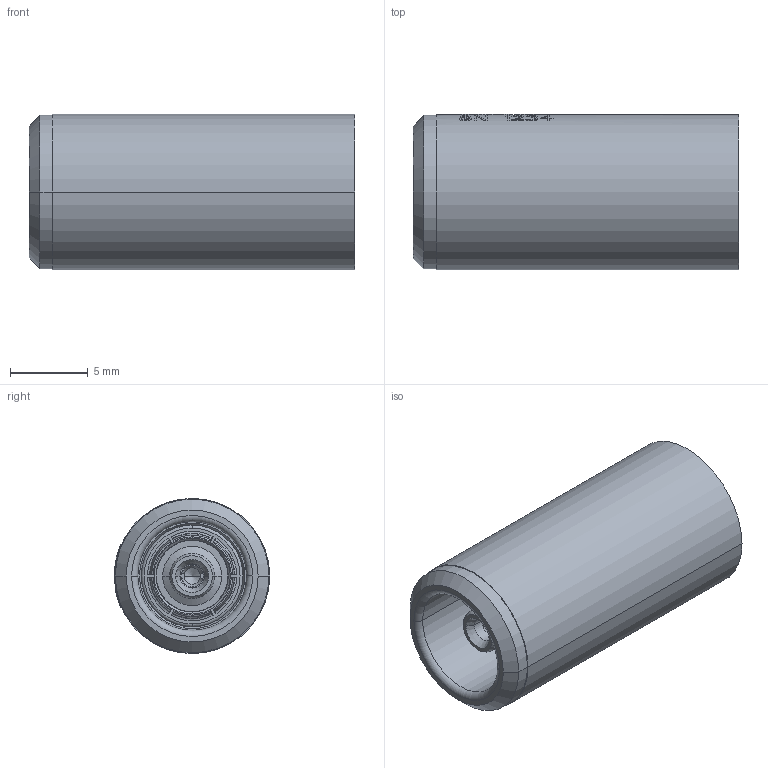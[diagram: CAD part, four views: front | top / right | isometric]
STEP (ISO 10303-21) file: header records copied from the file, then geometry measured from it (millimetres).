
FILE_DESCRIPTION((''),'2;1');
FILE_NAME('CS1_04','2009-08-25T',('11000065'),(''),'PRO/ENGINEER BY PARAMETRIC TECHNOLOGY CORPORATION, 2008490','PRO/ENGINEER BY PARAMETRIC TECHNOLOGY CORPORATION, 2008490','');
FILE_SCHEMA(('AUTOMOTIVE_DESIGN { 1 2 10303 214 0 1 1 1 }'));
Length unit declared in the file: millimetre
Products named in the file (1): CS1_04
Bounding box: 21 x 10.02 x 10 mm (x, y, z)
Volume: 1312.6 mm3; surface area: 1380.5 mm2
Topology: 1 solids, 5 shells, 833 faces, 2371 edges, 1583 vertices
Faces by surface type: plane 700, cylinder 79, cone 30, torus 24
Entity records: 36027 total; most frequent: CARTESIAN_POINT 7370, ORIENTED_EDGE 4738, DIRECTION 3459, PRESENTATION_STYLE_ASSIGNMENT 2481, STYLED_ITEM 2373, CURVE_STYLE 2369, EDGE_CURVE 2369, VERTEX_POINT 1583
